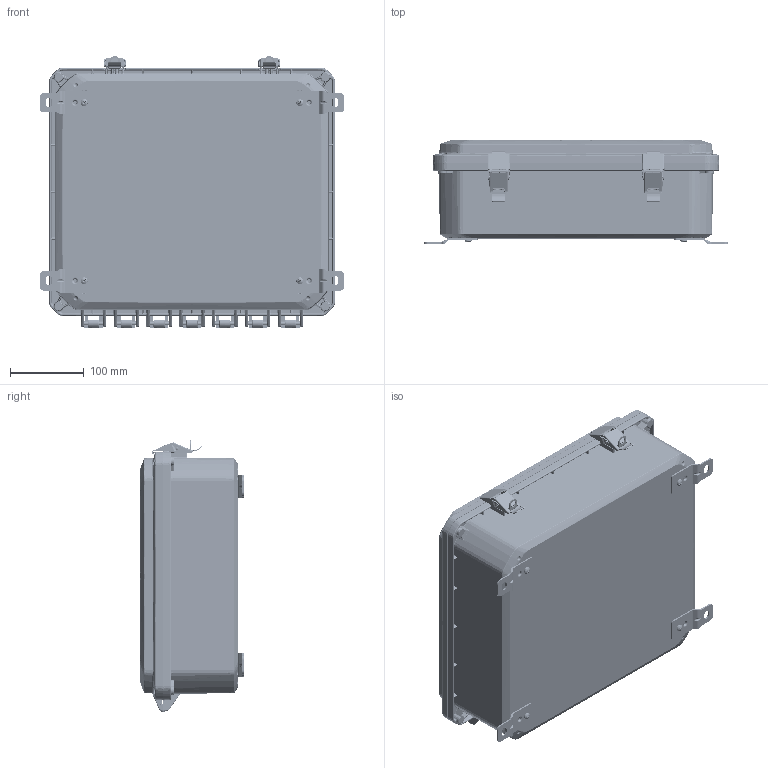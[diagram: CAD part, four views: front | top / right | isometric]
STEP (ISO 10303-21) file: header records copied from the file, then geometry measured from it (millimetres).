
FILE_DESCRIPTION (( 'STEP AP214' ), '1' );
FILE_NAME ('ZH-141204-40.STEP', '2024-10-25T19:32:58', ( '' ), ( '' ), 'SwSTEP 2.0', 'SolidWorks 2024', '' );
FILE_SCHEMA (( 'AUTOMOTIVE_DESIGN' ));
Length unit declared in the file: inch
Products named in the file (17): ZH-141204-40; ZH-95P_DEFAULT; INSERTS-4; Z_-14124B_ZH-14124B-01; ZH-1412G; ZH-01L1; ZH-01L4; ZH-01L3; ZH-91F-01_ZH-91F-01; LABEL-104; Z_-14121CG_ZH-14121CG-01; ZH-01L; ZH-01L5; Z_-14124BI_ZH-14124BI-01; ZH-01L2; SCREWS-049_SCREWS-049; Z_-14121C_ZH-14121C-01
Assembly tree (37 placements, depth 3):
  ZH-141204-40
    Z_-14124BI_ZH-14124BI-01
      Z_-14124B_ZH-14124B-01
      INSERTS-4  x12
      LABEL-104
    Z_-14121CG_ZH-14121CG-01
      Z_-14121C_ZH-14121C-01
      ZH-1412G
    ZH-95P_DEFAULT  x4
    ZH-01L  x2
      ZH-01L1
      ZH-01L2
      ZH-01L3
      ZH-01L4
      ZH-01L5
    ZH-91F-01_ZH-91F-01  x4
    SCREWS-049_SCREWS-049  x4
Bounding box: 412.75 x 139.7 x 368.26 mm (x, y, z)
Volume: 2111812.9 mm3; surface area: 1021455.2 mm2
Topology: 42 solids, 42 shells, 8209 faces, 20071 edges, 11860 vertices
Faces by surface type: bspline 2587, plane 1936, cylinder 1842, torus 892, cone 872, sphere 80
Entity records: 283262 total; most frequent: CARTESIAN_POINT 155512, ORIENTED_EDGE 29760, DIRECTION 23220, EDGE_CURVE 14880, AXIS2_PLACEMENT_3D 9476, VERTEX_POINT 8725, EDGE_LOOP 6487, ADVANCED_FACE 6302
